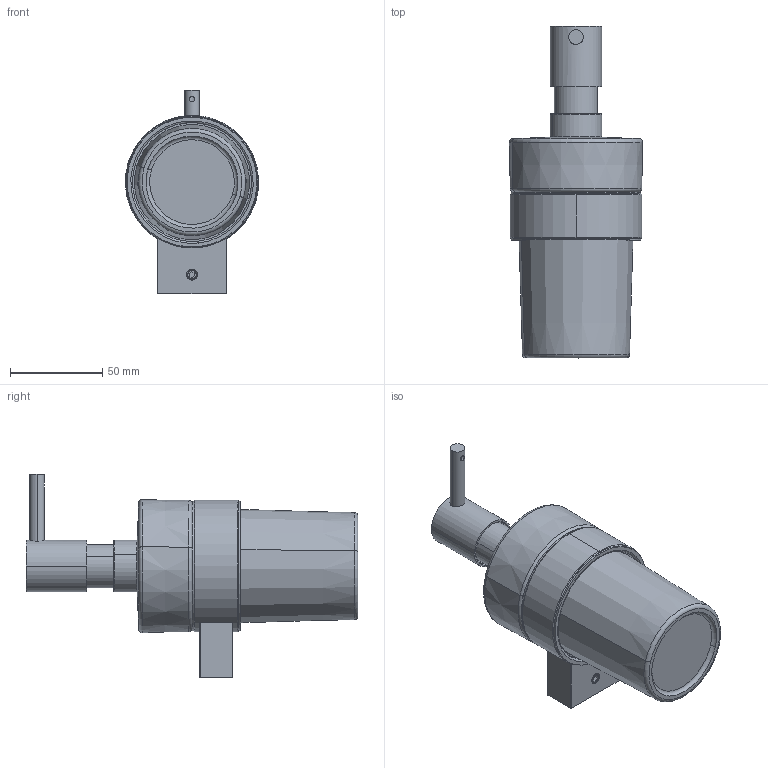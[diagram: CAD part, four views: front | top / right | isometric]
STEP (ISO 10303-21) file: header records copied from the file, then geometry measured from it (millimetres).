
FILE_DESCRIPTION (( 'STEP AP203' ), '1' );
FILE_NAME ('28021A-00-00.STEP', '2022-07-07T05:09:56', ( 'Windows User' ), ( 'P R C' ), 'SwSTEP 2.0', 'SolidWorks 2015', '' );
FILE_SCHEMA (( 'CONFIG_CONTROL_DESIGN' ));
Length unit declared in the file: millimetre
Products named in the file (1): 28021A-00-00
Bounding box: 72.33 x 180.22 x 110.75 mm (x, y, z)
Surface area: 58902 mm2 (no closed solid volume)
Topology: 0 solids, 12 shells, 147 faces, 429 edges, 295 vertices
Faces by surface type: cylinder 52, plane 44, bspline 24, torus 14, cone 12, sphere 1
Entity records: 5776 total; most frequent: CARTESIAN_POINT 2067, DIRECTION 764, ORIENTED_EDGE 690, EDGE_CURVE 426, VERTEX_POINT 295, AXIS2_PLACEMENT_3D 294, VECTOR 176, LINE 176
